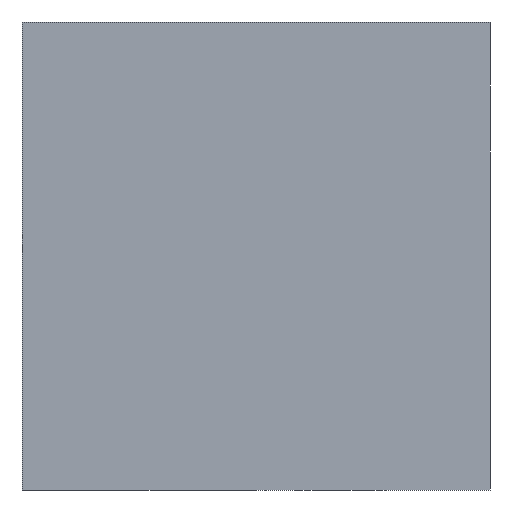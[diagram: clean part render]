
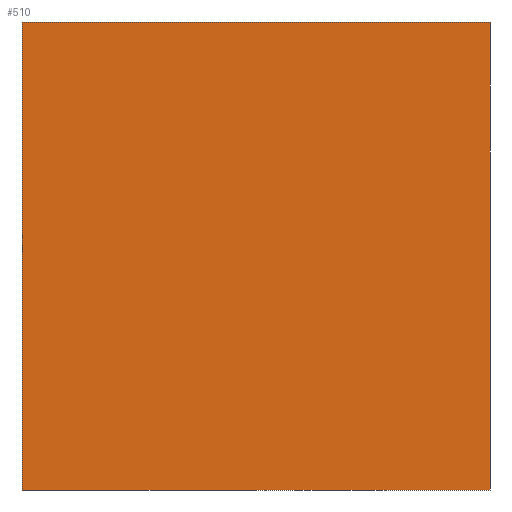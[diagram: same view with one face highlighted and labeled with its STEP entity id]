
A CAD part, left-side view. The second image highlights one B-rep face of the part: STEP entity #510.
In plain terms, the highlighted planar face has unit normal (-1, 0, 0).
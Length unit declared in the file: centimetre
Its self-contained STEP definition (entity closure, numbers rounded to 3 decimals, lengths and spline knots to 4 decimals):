
#54 = DIRECTION ( 'NONE',  ( 1., 0., 0. ) ) ;
#70 = EDGE_CURVE ( 'NONE', #497, #558, #372, .T. ) ;
#102 = CARTESIAN_POINT ( 'NONE',  ( 0., 0., 1000. ) ) ;
#123 = CARTESIAN_POINT ( 'NONE',  ( 0., 0., 1000. ) ) ;
#128 = DIRECTION ( 'NONE',  ( 0., -1., 0. ) ) ;
#154 = LINE ( 'NONE', #304, #269 ) ;
#155 = FACE_OUTER_BOUND ( 'NONE', #488, .T. ) ;
#162 = VERTEX_POINT ( 'NONE', #591 ) ;
#172 = VERTEX_POINT ( 'NONE', #347 ) ;
#180 = VECTOR ( 'NONE', #202, 100. ) ;
#183 = DIRECTION ( 'NONE',  ( 0., 0., -1. ) ) ;
#200 = CARTESIAN_POINT ( 'NONE',  ( 0., 0., 0. ) ) ;
#202 = DIRECTION ( 'NONE',  ( 0., -1., 0. ) ) ;
#245 = EDGE_CURVE ( 'NONE', #172, #558, #479, .T. ) ;
#259 = CARTESIAN_POINT ( 'NONE',  ( 0., 1000., 1000. ) ) ;
#269 = VECTOR ( 'NONE', #492, 100. ) ;
#282 = VECTOR ( 'NONE', #128, 100. ) ;
#297 = ORIENTED_EDGE ( 'NONE', *, *, #245, .T. ) ;
#304 = CARTESIAN_POINT ( 'NONE',  ( 0., 1000., 1000. ) ) ;
#343 = CARTESIAN_POINT ( 'NONE',  ( 0., 1000., 0. ) ) ;
#347 = CARTESIAN_POINT ( 'NONE',  ( 0., 1000., 0. ) ) ;
#364 = EDGE_CURVE ( 'NONE', #162, #497, #618, .T. ) ;
#372 = LINE ( 'NONE', #123, #620 ) ;
#396 = ORIENTED_EDGE ( 'NONE', *, *, #70, .F. ) ;
#400 = PLANE ( 'NONE',  #457 ) ;
#457 = AXIS2_PLACEMENT_3D ( 'NONE', #259, #54, #600 ) ;
#467 = CARTESIAN_POINT ( 'NONE',  ( 0., 1000., 1000. ) ) ;
#479 = LINE ( 'NONE', #343, #180 ) ;
#488 = EDGE_LOOP ( 'NONE', ( #297, #396, #516, #505 ) ) ;
#489 = EDGE_CURVE ( 'NONE', #162, #172, #154, .T. ) ;
#492 = DIRECTION ( 'NONE',  ( 0., 0., -1. ) ) ;
#497 = VERTEX_POINT ( 'NONE', #102 ) ;
#505 = ORIENTED_EDGE ( 'NONE', *, *, #489, .T. ) ;
#510 = ADVANCED_FACE ( 'NONE', ( #155 ), #400, .F. ) ;
#516 = ORIENTED_EDGE ( 'NONE', *, *, #364, .F. ) ;
#558 = VERTEX_POINT ( 'NONE', #200 ) ;
#591 = CARTESIAN_POINT ( 'NONE',  ( 0., 1000., 1000. ) ) ;
#600 = DIRECTION ( 'NONE',  ( 0., 0., -1. ) ) ;
#618 = LINE ( 'NONE', #467, #282 ) ;
#620 = VECTOR ( 'NONE', #183, 100. ) ;
